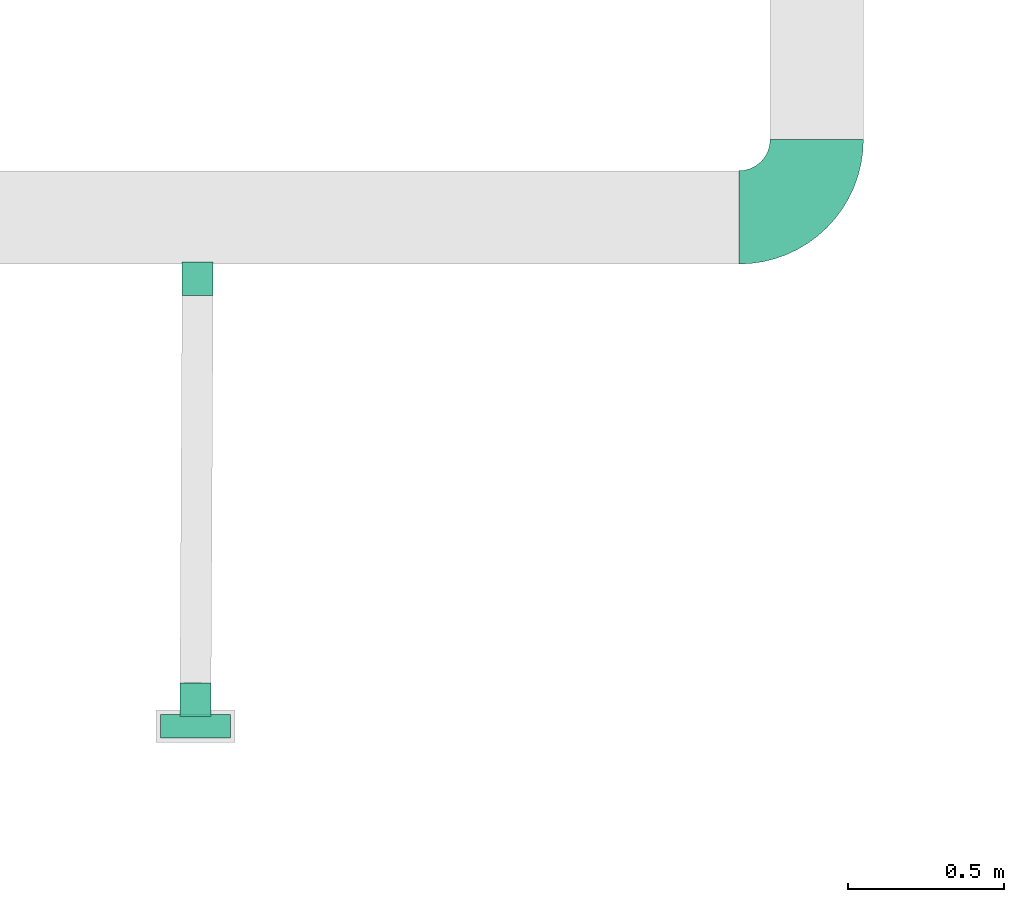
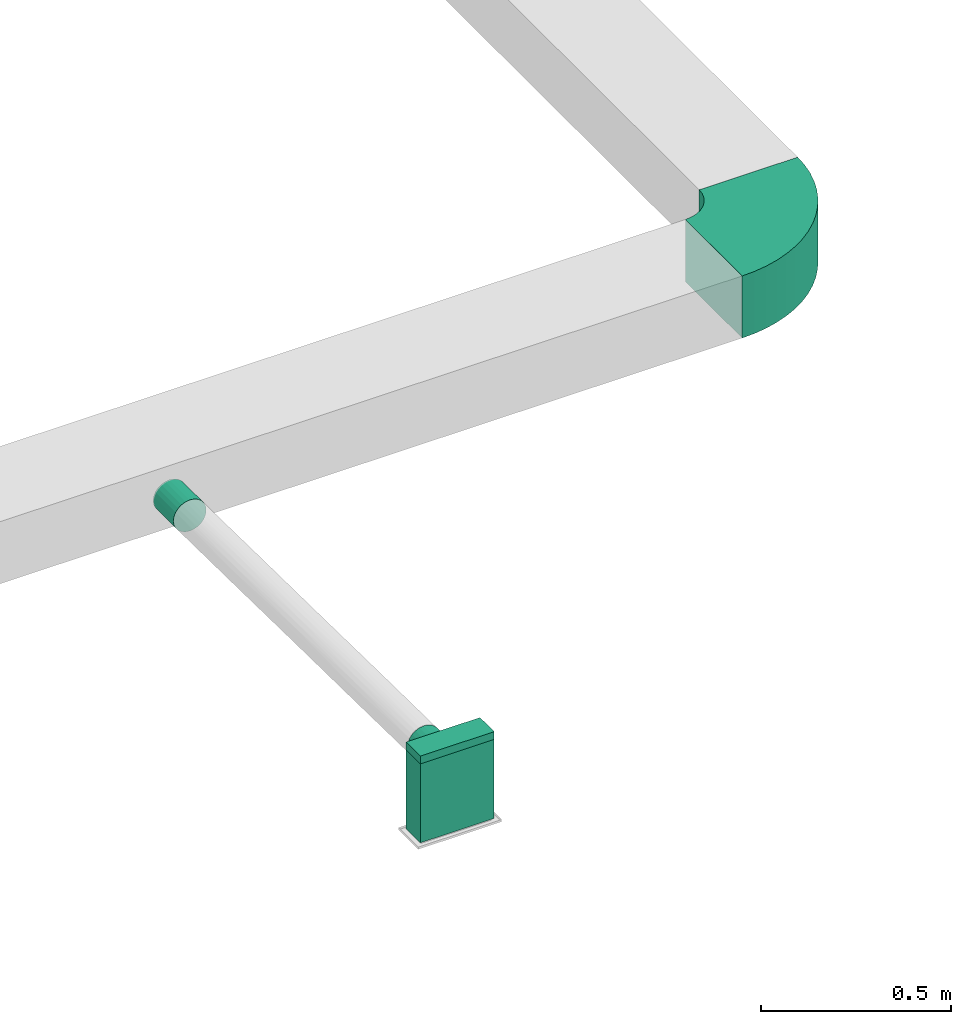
# One storey, part 26 of 60: 4 flow fittings, 1 flow segment.
"""IFC2X3 building model written with IfcOpenShell, lengths in millimetres."""

from ifc_helpers import new_model, entity, si_unit, converted_unit, derived_unit, direction, frame, frame_2d, origin, origin_2d_with_axis, place, context, subcontext, project, spatial, polyline, circle_curve, parameter, trimmed, segment, composite_curve, rectangle, outline, extrude, faceted_brep, source, transform, mapped, material, type_object, type_shapes, element, save


model = new_model("IFC2X3")

# Units and contexts
model_context = context("Model", 3, precision=0.01, world=origin(), true_north=direction((6.123233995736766e-17, 1.0)))
body_context = subcontext(model_context, "Body", "Model", "MODEL_VIEW")
ifc_project = project(units=[si_unit("LENGTHUNIT", "METRE", prefix="MILLI"), converted_unit("PLANEANGLEUNIT", "DEGREE", entity("IfcPlaneAngleMeasure", 0.017453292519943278), si_unit("PLANEANGLEUNIT", "RADIAN"), dimensions=[0, 0, 0, 0, 0, 0, 0]), si_unit("AREAUNIT", "SQUARE_METRE"), derived_unit("THERMALTRANSMITTANCEUNIT", [(si_unit("MASSUNIT", "GRAM", prefix="KILO"), 1), (si_unit("THERMODYNAMICTEMPERATUREUNIT", "KELVIN"), -1), (si_unit("TIMEUNIT", "SECOND"), -3)])], contexts=[model_context])

# Site, building, storey
site_placement = place(None, origin())
site = spatial("IfcSite", under=ifc_project, at=site_placement, Name="Default", CompositionType="ELEMENT")
building_placement = place(site_placement, origin())
building = spatial("IfcBuilding", under=site, at=building_placement, Name="Praça Pedro II, 1301 - Centro (Sul), Teresina - PI, 64001-100", CompositionType="ELEMENT")
storey_placement = place(building_placement, frame((0.0, 0.0, 6040.0)))
storey = spatial("IfcBuildingStorey", under=building, at=storey_placement, Name="2PAV", CompositionType="ELEMENT", Elevation=6040.0)

# Flow segment
duct_segment_type = type_object("IfcDuctSegmentType", Name="Duto retangular:Raios cotovelos / torneiras", PredefinedType="NOTDEFINED")
flow_segment_placement = place(storey_placement, origin())
element("IfcFlowSegment", 1, at=flow_segment_placement, inside=storey, type_object=duct_segment_type, Name="Duto retangular:Raios cotovelos / torneiras", ObjectType="Duto retangular:Raios cotovelos / torneiras", context=body_context, shape_type="SweptSolid", body=[
    extrude(rectangle(XDim=75.00000000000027, YDim=225.00000000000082, at=origin_2d_with_axis()), frame((34347.971071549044, -70256.53769889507, 2500.0), z_axis=(0.0, 0.0, 1.0), x_axis=(0.0, 1.0, 0.0)), (0.0, 0.0, 1.0), 254.2644639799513),
])

# Flow fittings
ifc_material = material(Name="<Unnamed>")
duct_fitting_type_1 = type_object("IfcDuctFittingType", Name="M_Tampa retangular:Padrão", PredefinedType="NOTDEFINED", material=ifc_material)
shared_shape_1 = source(origin(), body_context, "Body", "SweptSolid", [
    extrude(rectangle(XDim=24.999999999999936, YDim=225.00000000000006, at=origin_2d_with_axis()), frame((12.500000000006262, 0.0, -37.50000000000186)), (0.0, 0.0, 1.0), 75.0),
])
type_shapes(duct_fitting_type_1, [shared_shape_1])
flow_fitting_1_placement = place(storey_placement, frame((34347.97107154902, -70256.53769889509, 2754.2644639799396), z_axis=(0.0, -1.0, 0.0), x_axis=(0.0, 0.0, 1.0)))
element("IfcFlowFitting", 2, at=flow_fitting_1_placement, inside=storey, type_object=duct_fitting_type_1, material=ifc_material, Name="M_Tampa retangular:Padrão", ObjectType="M_Tampa retangular:Padrão", context=body_context, shape_type="MappedRepresentation", body=[
    mapped(shared_shape_1, transform((0.0, 0.0, 0.0), scale=1.0)),
])
duct_fitting_type_2 = type_object("IfcDuctFittingType", Name="M_Encaixe de duto redondo:Padrão", PredefinedType="NOTDEFINED", material=ifc_material)
shared_shape_2 = source(origin(), body_context, "Body", "Brep", [
    faceted_brep([(101.60000000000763, 50.0, 0.0), (101.60000000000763, 48.296291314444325, 12.940952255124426), (101.60000000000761, 43.301270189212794, 25.0), (101.6000000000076, 35.35533905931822, 35.35533905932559), (101.60000000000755, 25.0, 43.30127018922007), (101.60000000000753, 12.94095225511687, 48.29629131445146), (101.6000000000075, 0.0, 50.0), (101.60000000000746, -12.940952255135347, 48.29629131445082), (101.60000000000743, -25.0, 43.30127018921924), (101.6000000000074, -35.35533905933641, 35.355339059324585), (101.60000000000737, -43.301270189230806, 25.0), (101.60000000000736, -48.296291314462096, 12.940952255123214), (101.60000000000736, -50.0, 0.0), (101.60000000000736, -48.29629131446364, -12.94095225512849), (101.60000000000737, -43.301270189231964, -25.0), (101.6000000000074, -35.35533905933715, -35.35533905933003), (101.60000000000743, -25.0, -43.30127018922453), (101.60000000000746, -12.94095225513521, -48.29629131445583), (101.6000000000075, 0.0, -50.0), (101.60000000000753, 12.9409522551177, -48.29629131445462), (101.60000000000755, 25.0, -43.30127018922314), (101.6000000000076, 35.35533905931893, -35.35533905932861), (101.60000000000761, 43.30127018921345, -25.0), (101.60000000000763, 48.2962913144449, -12.940952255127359), (0.0, 12.940952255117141, 48.29629131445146), (-6.0959999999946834, 12.94095225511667, 48.29629131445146), (-6.095999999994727, 0.0, 50.0), (0.0, 0.0, 50.0), (0.0, 25.0, 43.30127018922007), (-6.0959999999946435, 25.0, 43.30127018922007), (0.0, 35.35533905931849, 35.35533905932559), (-6.095999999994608, 35.35533905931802, 35.35533905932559), (0.0, 48.296291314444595, 12.940952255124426), (-6.095999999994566, 48.296291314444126, 12.940952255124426), (-6.095999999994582, 43.3012701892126, 25.0), (0.0, 43.301270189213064, 25.0), (0.0, 50.0, 0.0), (-6.09599999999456, 50.0, 0.0), (0.0, 43.30127018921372, -25.0), (-6.095999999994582, 43.30127018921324, -25.0), (-6.095999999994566, 48.296291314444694, -12.940952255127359), (0.0, 48.29629131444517, -12.940952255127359), (0.0, 35.3553390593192, -35.35533905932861), (-6.095999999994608, 35.35533905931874, -35.35533905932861), (0.0, 12.940952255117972, -48.29629131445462), (-6.0959999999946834, 12.940952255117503, -48.29629131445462), (-6.0959999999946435, 25.0, -43.30127018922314), (0.0, 25.0, -43.30127018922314), (0.0, 0.0, -50.0), (-6.095999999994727, 0.0, -50.0), (0.0, -12.940952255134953, -48.29629131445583), (-6.09599999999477, -12.940952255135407, -48.29629131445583), (0.0, -25.0, -43.30127018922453), (-6.0959999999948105, -25.0, -43.30127018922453), (0.0, -35.35533905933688, -35.35533905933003), (-6.095999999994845, -35.355339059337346, -35.35533905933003), (0.0, -48.29629131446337, -12.94095225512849), (-6.095999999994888, -48.29629131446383, -12.94095225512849), (-6.095999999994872, -43.30127018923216, -25.0), (0.0, -43.301270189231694, -25.0), (0.0, -50.0, 0.0), (-6.095999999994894, -50.0, 0.0), (0.0, -48.296291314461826, 12.940952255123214), (-6.095999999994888, -48.296291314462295, 12.940952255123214), (0.0, -43.30127018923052, 25.0), (-6.095999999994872, -43.301270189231, 25.0), (0.0, -35.35533905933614, 35.355339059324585), (-6.095999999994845, -35.35533905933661, 35.355339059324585), (0.0, -12.940952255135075, 48.29629131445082), (-6.09599999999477, -12.940952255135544, 48.29629131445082), (-6.0959999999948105, -25.0, 43.30127018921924), (0.0, -25.0, 43.30127018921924)], [[[0, 1, 2, 3, 4, 5, 6, 7, 8, 9, 10, 11, 12, 13, 14, 15, 16, 17, 18, 19, 20, 21, 22, 23]], [[24, 25, 26, 27, 6, 5]], [[28, 29, 25, 24, 5, 4]], [[4, 3, 30, 31, 29, 28]], [[32, 33, 34, 35, 2, 1]], [[36, 37, 33, 32, 1, 0]], [[3, 2, 35, 34, 31, 30]], [[23, 22, 38, 39, 40, 41]], [[0, 23, 41, 40, 37, 36]], [[22, 21, 42, 43, 39, 38]], [[44, 45, 46, 47, 20, 19]], [[48, 49, 45, 44, 19, 18]], [[21, 20, 47, 46, 43, 42]], [[50, 51, 49, 48, 18, 17]], [[52, 53, 51, 50, 17, 16]], [[16, 15, 54, 55, 53, 52]], [[56, 57, 58, 59, 14, 13]], [[60, 61, 57, 56, 13, 12]], [[15, 14, 59, 58, 55, 54]], [[62, 63, 61, 60, 12, 11]], [[64, 65, 63, 62, 11, 10]], [[10, 9, 66, 67, 65, 64]], [[68, 69, 70, 71, 8, 7]], [[27, 26, 69, 68, 7, 6]], [[9, 8, 71, 70, 67, 66]], [[49, 51, 53, 55, 58, 57, 61, 63, 65, 67, 70, 69, 26, 25, 29, 31, 34, 33, 37, 40, 39, 43, 46, 45]]]),
])
type_shapes(duct_fitting_type_2, [shared_shape_2])
for number, where, z_axis, x_axis in (
    (3, (34347.971071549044, -70219.03769860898, 2680.294083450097), (1.0, 0.0, 0.0), (0.0, 1.0, 0.0)),
    (4, (34354.54420192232, -68770.24419274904, 2650.0), (0.0, 0.0, -1.0), (0.0, -1.0, 0.0)),
):
    element("IfcFlowFitting", number, at=place(storey_placement, frame(where, z_axis=z_axis, x_axis=x_axis)), inside=storey, type_object=duct_fitting_type_2, material=ifc_material, Name="M_Encaixe de duto redondo:Padrão", ObjectType="M_Encaixe de duto redondo:Padrão", context=body_context, shape_type="MappedRepresentation", body=[
        mapped(shared_shape_2, transform((0.0, 0.0, 0.0), scale=1.0)),
    ])
duct_fitting_type_3 = type_object("IfcDuctFittingType", Name="BTS vanes:1 Splitter Vanes", PredefinedType="NOTDEFINED", material=ifc_material)
shared_shape_3 = source(origin(), body_context, "Body", "SweptSolid", [
    extrude(outline(composite_curve([segment(polyline([(-275.0, -125.0), (25.0, -125.0)]), True, "CONTINUOUS"), segment(trimmed(circle_curve(frame_2d((125.0, -125.0), x_axis=(0.0, 1.0)), 99.99999999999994), [parameter(0.0)], [parameter(90.00000000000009)], True, "PARAMETER"), False, "CONTINUOUS"), segment(polyline([(125.0, -25.0), (125.0, 275.0)]), True, "CONTINUOUS"), segment(trimmed(circle_curve(frame_2d((125.0, -125.0), x_axis=(0.0, 1.0)), 400.0), [parameter(0.0)], [parameter(90.00000000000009)], True, "PARAMETER"), True, "CONTINUOUS")], self_intersect=False)), frame((-125.0, 125.0, -100.0), z_axis=(0.0, 0.0, 1.0), x_axis=(-1.0, 0.0, 0.0)), (0.0, 0.0, 1.0), 200.0),
    extrude(outline(composite_curve([segment(polyline([(-77.63157894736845, -59.21052631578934), (-40.78947368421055, -59.21052631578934)]), True, "CONTINUOUS"), segment(trimmed(circle_curve(frame_2d((59.21052631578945, -59.21052631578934), x_axis=(0.0, 1.0)), 100.0), [parameter(0.0)], [parameter(90.00000000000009)], True, "PARAMETER"), False, "CONTINUOUS"), segment(polyline([(59.21052631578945, 40.78947368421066), (59.21052631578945, 77.63157894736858)]), True, "CONTINUOUS"), segment(trimmed(circle_curve(frame_2d((59.21052631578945, -59.21052631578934), x_axis=(0.0, 1.0)), 136.84210526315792), [parameter(0.0)], [parameter(90.00000000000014)], True, "PARAMETER"), True, "CONTINUOUS")], self_intersect=False)), frame((-190.78947368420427, 190.78947368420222, -100.0), z_axis=(0.0, 0.0, 1.0), x_axis=(-1.0, 0.0, 0.0)), (0.0, 0.0, 1.0), 200.0),
])
type_shapes(duct_fitting_type_3, [shared_shape_3])
flow_fitting_2_placement = place(storey_placement, frame((36345.36892569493, -68620.24419274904, 2650.0)))
element("IfcFlowFitting", 5, at=flow_fitting_2_placement, inside=storey, type_object=duct_fitting_type_3, material=ifc_material, Name="BTS vanes:1 Splitter Vanes", ObjectType="BTS vanes:1 Splitter Vanes", context=body_context, shape_type="MappedRepresentation", body=[
    mapped(shared_shape_3, transform((0.0, 0.0, 0.0), scale=1.0)),
])

save(model, "model.ifc")
